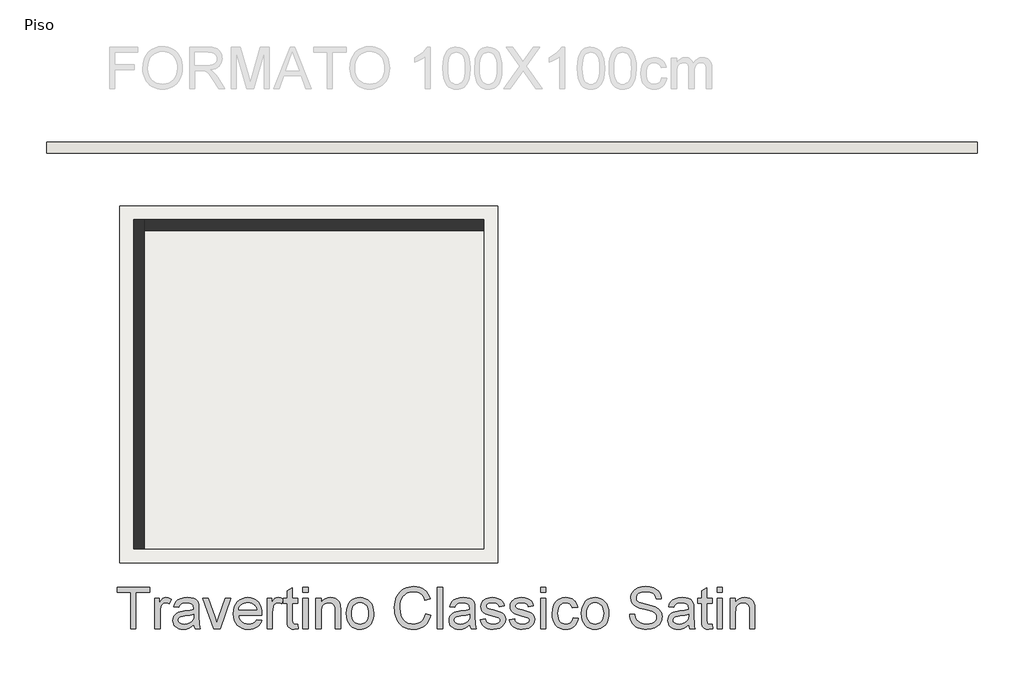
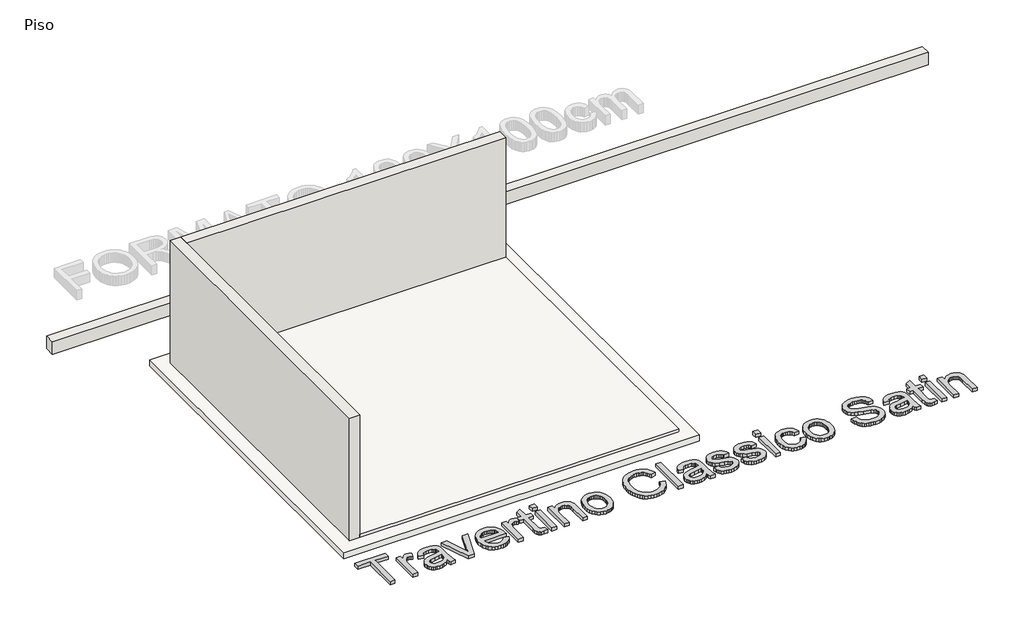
# One storey, part 1 of 2: 3 walls, 2 slabs, 1 proxy.
"""IFC4 building model written with IfcOpenShell, lengths in millimetres."""

from ifc_helpers import new_model, si_unit, frame, origin, origin_with_axes, place, context, project, spatial, polyline, outline, extrude, faceted_brep, element, save

model = new_model("IFC4")

# Units and contexts
model_context = context("Model", 3, world=origin())
ifc_project = project(units=[si_unit("LENGTHUNIT", "METRE", prefix="MILLI")], contexts=[model_context])

# Site, building, storey
site = spatial("IfcSite", under=ifc_project)
building = spatial("IfcBuilding", under=site)
storey = spatial("IfcBuildingStorey", under=building, Name="Piso", Elevation=0.0)

# Proxy
placement = place(None, origin())
element("IfcBuildingElementProxy", 1, Name="600mm Arial", ObjectType="600mm Arial", at=placement, inside=storey, context=model_context, shape_type="SweptSolid", body=[
    extrude(outline(polyline([(92908.3794559, -5134.2532893), (92908.3794559, -4606.857661), (92710.6060953, -4606.857661), (92710.6060953, -4531.5154284), (93181.4950492, -4531.5154284), (93181.4950492, -4606.857661), (92983.7216886, -4606.857661), (92983.7216886, -5134.2532893), (92908.3794559, -5134.2532893)])), origin_with_axes(), (0.0, 0.0, 1.0), 50.0),
    extrude(outline(polyline([(93256.8372818, -5134.2532893), (93256.8372818, -4691.6176727), (93322.7617353, -4691.6176727), (93322.7617353, -4757.1006679), (93347.1155234, -4719.135246), (93369.5563251, -4696.7680207), (93392.0707032, -4685.8419254), (93416.6452205, -4682.1998937), (93454.169184, -4688.0124292), (93492.2817587, -4705.4500358), (93467.1186302, -4772.9931701), (93440.6311266, -4761.4048872), (93414.1436229, -4757.5421263), (93391.6476389, -4761.2577344), (93371.5428879, -4772.4045589), (93355.3008978, -4790.136471), (93344.3931966, -4813.6073423), (93335.232935, -4855.6930426), (93332.1795144, -4901.6047156), (93332.1795144, -5134.2532893), (93256.8372818, -5134.2532893)])), origin_with_axes(), (0.0, 0.0, 1.0), 50.0),
    extrude(outline(polyline([(93821.9040264, -5077.7466149), (93785.9067731, -5108.6119143), (93748.8426621, -5128.8086358), (93709.8655647, -5139.9554603), (93668.1293524, -5143.6710684), (93634.583113, -5141.4361853), (93605.1663489, -5134.7315359), (93579.8790603, -5123.5571203), (93558.721247, -5107.9129385), (93542.0148059, -5088.7922718), (93530.0816337, -5067.1884016), (93522.9217304, -5043.101328), (93520.5350959, -5016.5310509), (93524.1403395, -4985.2978695), (93534.9560701, -4956.9341677), (93551.6395186, -4932.653956), (93572.8479156, -4913.671245), (93597.7719208, -4899.3238472), (93625.6021937, -4888.949575), (93690.7908833, -4877.6188095), (93767.8253731, -4865.6994329), (93821.462568, -4851.719917), (93821.9040264, -4834.9444981), (93816.7168902, -4801.3200837), (93810.2329701, -4788.8672782), (93801.1554818, -4779.3207404), (93785.4653147, -4769.7925967), (93766.3538451, -4762.9867798), (93717.8669981, -4757.5421263), (93672.9853947, -4761.1657639), (93641.6418487, -4772.0366769), (93620.2679048, -4792.1414279), (93605.2951076, -4823.4665798), (93529.952875, -4814.0488007), (93543.0310799, -4772.8460173), (93562.5472198, -4740.4724017), (93590.3223104, -4715.7139434), (93628.1773677, -4697.3566319), (93674.4753168, -4685.9890782), (93727.5790828, -4682.1998937), (93778.512345, -4685.5476198), (93818.887394, -4695.5907983), (93849.3296291, -4710.6923542), (93870.4644497, -4729.2152126), (93884.4807538, -4752.1158668), (93893.567439, -4780.35081), (93897.246259, -4846.2752635), (93897.246259, -4940.0115959), (93901.0722317, -5070.9040098), (93906.7376145, -5103.2592312), (93916.0818171, -5134.2532893), (93840.7395845, -5134.2532893), (93828.6730551, -5108.0600913), (93821.9040264, -5077.7466149)]), holes=[polyline([(93821.9040264, -4927.0621497), (93771.2834638, -4939.6069257), (93700.3558152, -4950.1651389), (93635.5350076, -4962.3788212), (93618.6676181, -4970.7297425), (93606.1780244, -4982.2444489), (93598.4525025, -4996.0400237), (93595.8773285, -5011.2335501), (93601.487529, -5033.6375637), (93618.3181302, -5051.9948752), (93646.0012504, -5064.2453457), (93684.1690074, -5068.3288358), (93724.6360268, -5063.8222814), (93760.3941568, -5050.302618), (93789.383258, -5030.381808), (93809.5431913, -5006.6718134), (93818.4827238, -4982.2444489), (93821.462568, -4948.3993054), (93821.9040264, -4927.0621497)])]), origin_with_axes(), (0.0, 0.0, 1.0), 50.0),
    extrude(outline(polyline([(94109.4405938, -5134.2532893), (93953.7529334, -4691.6176727), (94033.50975, -4691.6176727), (94127.8346936, -4956.7870149), (94156.2351836, -5045.9616105), (94184.0470624, -4961.79021), (94278.9606172, -4691.6176727), (94358.7174337, -4691.6176727), (94204.9427597, -5134.2532893), (94109.4405938, -5134.2532893)])), origin_with_axes(), (0.0, 0.0, 1.0), 50.0),
    extrude(outline(polyline([(94734.54568, -5002.4043823), (94808.4163846, -5011.8221613), (94797.0902177, -5041.4090708), (94781.8001223, -5067.4827072), (94762.5460984, -5090.0430706), (94739.3281459, -5109.0901609), (94712.3853883, -5124.2193079), (94681.9569488, -5135.0258415), (94648.0428274, -5141.5097617), (94610.643024, -5143.6710684), (94563.8944195, -5139.9416647), (94522.2409806, -5128.7534535), (94485.6827073, -5110.1064349), (94454.2195997, -5084.0006088), (94428.9185155, -5051.1625422), (94410.8463124, -5012.318802), (94400.0029906, -4967.4693883), (94396.38855, -4916.614301), (94400.0397788, -4864.0347668), (94410.9934652, -4817.6908325), (94429.2496093, -4777.582498), (94454.8082109, -4743.7097633), (94486.1885451, -4716.7991953), (94521.9098868, -4697.5773611), (94561.9722361, -4686.0442605), (94606.3755929, -4682.1998937), (94649.3488084, -4686.0350635), (94688.2109427, -4697.5405729), (94722.9619957, -4716.7164219), (94753.6019674, -4743.5626105), (94778.6133445, -4777.3617688), (94796.4786139, -4817.3965269), (94807.1977755, -4863.6668848), (94810.7708294, -4916.1728426), (94810.329371, -4936.4799287), (94471.7307827, -4936.4799287), (94476.0947828, -4966.5450848), (94484.7721994, -4992.8762386), (94497.7630323, -5015.4733901), (94515.0672817, -5034.3365394), (94535.7284542, -5049.2081691), (94558.7900568, -5059.8307617), (94584.2520894, -5066.2043173), (94612.114552, -5068.3288358), (94652.2136895, -5064.3924984), (94685.9852566, -5052.5834864), (94713.4292535, -5032.1660357), (94734.54568, -5002.4043823)]), holes=[polyline([(94471.7307827, -4861.1376961), (94735.4285968, -4861.1376961), (94725.2382655, -4821.3328642), (94716.473477, -4805.6794853), (94705.2622732, -4792.8587978), (94684.7160638, -4777.407754), (94661.337163, -4766.3712942), (94635.1255708, -4759.7494182), (94606.0812873, -4757.5421263), (94579.5891851, -4759.3033613), (94555.2951779, -4764.5870665), (94533.1992655, -4773.3932417), (94513.3014481, -4785.7218871), (94496.6042041, -4801.0027855), (94484.1100118, -4818.6657198), (94475.8188713, -4838.71069), (94471.7307827, -4861.1376961)])]), origin_with_axes(), (0.0, 0.0, 1.0), 50.0),
    extrude(outline(polyline([(95328.7486786, -5071.4190446), (95338.1664577, -5136.4605813), (95281.806936, -5143.6710684), (95245.6441359, -5140.5440715), (95218.6783857, -5131.1630806), (95199.6220983, -5116.7053182), (95187.1876869, -5098.3480066), (95180.3450818, -5066.8205196), (95178.0642134, -5012.8522309), (95178.0642134, -4766.9599053), (95121.5575389, -4766.9599053), (95121.5575389, -4705.4500358), (95121.5575389, -4691.6176727), (95178.0642134, -4691.6176727), (95178.0642134, -4584.0489773), (95253.406446, -4539.7559851), (95253.406446, -4691.6176727), (95328.7486786, -4691.6176727), (95328.7486786, -4766.9599053), (95253.406446, -4766.9599053), (95253.406446, -5010.644939), (95257.3795716, -5049.4932776), (95270.2554414, -5063.2520643), (95281.1263543, -5067.0596429), (95295.9336046, -5068.3288358), (95328.7486786, -5071.4190446)])), origin_with_axes(), (0.0, 0.0, 1.0), 50.0),
    extrude(outline(polyline([(94886.113062, -5134.2532893), (94886.113062, -4691.6176727), (94952.0375156, -4691.6176727), (94952.0375156, -4757.1006679), (94976.3913036, -4719.135246), (94998.8321053, -4696.7680207), (95021.3464834, -4685.8419254), (95045.9210007, -4682.1998937), (95083.4449642, -4688.0124292), (95121.5575389, -4705.4500358), (95096.3944105, -4772.9931701), (95069.9069068, -4761.4048872), (95043.4194032, -4757.5421263), (95020.9234192, -4761.2577344), (95000.8186681, -4772.4045589), (94984.576678, -4790.136471), (94973.6689769, -4813.6073423), (94964.5087152, -4855.6930426), (94961.4552946, -4901.6047156), (94961.4552946, -5134.2532893), (94886.113062, -5134.2532893)])), origin_with_axes(), (0.0, 0.0, 1.0), 50.0),
    extrude(outline(polyline([(95404.0909112, -4606.857661), (95404.0909112, -4531.5154284), (95479.4331438, -4531.5154284), (95479.4331438, -4606.857661), (95404.0909112, -4606.857661)])), origin_with_axes(), (0.0, 0.0, 1.0), 50.0),
    extrude(outline(polyline([(95404.0909112, -5134.2532893), (95404.0909112, -4691.6176727), (95479.4331438, -4691.6176727), (95479.4331438, -5134.2532893), (95404.0909112, -5134.2532893)])), origin_with_axes(), (0.0, 0.0, 1.0), 50.0),
    extrude(outline(polyline([(95592.4464928, -5134.2532893), (95592.4464928, -4691.6176727), (95667.7887254, -4691.6176727), (95667.7887254, -4753.4218479), (95693.9635293, -4722.2622429), (95725.3990458, -4700.0053822), (95762.0952748, -4686.6512658), (95804.0522164, -4682.1998937), (95841.1899038, -4685.7867431), (95875.2005943, -4696.5472915), (95903.5642961, -4713.1387695), (95923.7610176, -4734.2184078), (95937.4646219, -4759.7310241), (95946.3489721, -4789.6214363), (95950.3220977, -4862.4620713), (95950.3220977, -5134.2532893), (95874.9798651, -5134.2532893), (95874.9798651, -4872.6156144), (95872.8093613, -4833.6569111), (95866.29785, -4805.9553968), (95854.2865028, -4786.1081632), (95835.6164916, -4770.7123017), (95811.6857678, -4760.8346701), (95783.892283, -4757.5421263), (95761.0146215, -4759.3907333), (95739.7648377, -4764.9365544), (95720.1429318, -4774.1795895), (95702.1489037, -4787.1198387), (95687.1163257, -4805.2288299), (95676.37877, -4829.9780911), (95669.9362365, -4861.3676224), (95667.7887254, -4899.3974236), (95667.7887254, -5134.2532893), (95592.4464928, -5134.2532893)])), origin_with_axes(), (0.0, 0.0, 1.0), 50.0),
    extrude(outline(polyline([(96035.0821094, -4912.935481), (96039.1564025, -4855.6102691), (96051.3792817, -4806.2129142), (96071.7507472, -4764.7434163), (96100.2707989, -4731.2017754), (96128.9839886, -4709.7634521), (96160.6770225, -4694.4503641), (96195.3499006, -4685.2625113), (96233.0026228, -4682.1998937), (96274.5686897, -4685.9292974), (96312.152434, -4697.1175086), (96345.7538558, -4715.7645272), (96375.3729549, -4741.8703533), (96399.5474005, -4774.55207), (96416.8148616, -4812.9267606), (96427.1753383, -4856.9944251), (96430.6288306, -4906.7550635), (96429.1021203, -4947.0841272), (96424.5219894, -4982.8698483), (96416.888438, -5014.1122268), (96406.2014661, -5040.8112626), (96392.5944308, -5063.8728651), (96376.2006894, -5084.2029439), (96357.0202419, -5101.8014988), (96335.0530882, -5116.66853), (96311.1545541, -5128.4821405), (96286.1799652, -5136.9204338), (96260.1293214, -5141.9834098), (96233.0026228, -5143.6710684), (96190.8295505, -5139.9554603), (96152.8963183, -5128.8086358), (96119.2029261, -5110.230595), (96089.7493738, -5084.221338), (96065.8324456, -5051.222323), (96048.7489255, -5011.6750085), (96038.4988134, -4965.5793945), (96035.0821094, -4912.935481)]), holes=[polyline([(96110.424342, -4912.7883282), (96112.6040428, -4949.3328059), (96119.1431453, -4980.975256), (96130.0416494, -5007.7156786), (96145.2995551, -5029.5540735), (96163.8592018, -5046.518032), (96184.6629286, -5058.6351452), (96207.7107356, -5065.9054132), (96233.0026228, -5068.3288358), (96258.1657512, -5065.8916176), (96281.1215877, -5058.5799629), (96301.8701323, -5046.3938718), (96320.4113848, -5029.3333443), (96335.6692906, -5007.2788187), (96346.5677947, -4980.1107334), (96353.1068971, -4947.8290883), (96355.286598, -4910.4338835), (96353.0931016, -4875.0482341), (96346.5126124, -4844.2335184), (96335.5451304, -4817.9897366), (96320.1906556, -4796.3168886), (96301.5804252, -4779.3529301), (96280.8456762, -4767.2358168), (96257.9864088, -4759.9655489), (96233.0026228, -4757.5421263), (96207.7107356, -4759.9563519), (96184.6629286, -4767.1990286), (96163.8592018, -4779.2701566), (96145.2995551, -4796.1697358), (96130.0416494, -4817.9437514), (96119.1431453, -4844.6381886), (96112.6040428, -4876.2530476), (96110.424342, -4912.7883282)])]), origin_with_axes(), (0.0, 0.0, 1.0), 50.0),
    extrude(outline(polyline([(97184.0511567, -4919.9988153), (97259.3933893, -4939.4229847), (97244.4849714, -4986.2773553), (97224.6285408, -5027.2180228), (97199.8240972, -5062.2449873), (97170.0716409, -5091.3582487), (97136.0425563, -5114.2451073), (97098.4082282, -5130.5928635), (97057.1686566, -5140.4015172), (97012.3238413, -5143.6710684), (96966.3799787, -5141.197062), (96924.9334734, -5133.7750427), (96887.9843255, -5121.4050107), (96855.532535, -5104.0869657), (96827.132045, -5082.0784254), (96802.3367985, -5055.636907), (96781.1467956, -5024.7624105), (96763.5620362, -4989.454936), (96749.7526658, -4951.2411938), (96739.8888298, -4911.6478941), (96733.9705282, -4870.6750368), (96731.997761, -4828.3226221), (96734.2280456, -4782.8799987), (96740.9188994, -4740.4356135), (96752.0703224, -4700.9894666), (96767.6823145, -4664.5415579), (96787.405388, -4631.6942942), (96810.8900549, -4603.0500824), (96838.1363152, -4578.6089223), (96869.1441688, -4558.3708141), (96902.8605537, -4542.5013045), (96938.2324075, -4531.1659405), (96975.2597303, -4524.3647222), (97013.9425221, -4522.0976494), (97057.0352993, -4525.0315083), (97096.5504241, -4533.833085), (97132.4878965, -4548.5023796), (97164.8477165, -4569.0393919), (97193.0964552, -4594.9014962), (97216.7006838, -4625.5460664), (97235.6604021, -4660.9731025), (97249.9756102, -4701.1826046), (97174.6333776, -4719.135246), (97162.7691833, -4689.5069498), (97148.513756, -4664.19207), (97131.8670957, -4643.1906066), (97112.8292024, -4626.5025596), (97091.2897116, -4613.7876381), (97067.1382586, -4604.7055514), (97040.3748435, -4599.2562993), (97010.9994662, -4597.439882), (96977.2003079, -4599.4540359), (96946.2890232, -4605.4964977), (96918.2656122, -4615.5672673), (96893.1300749, -4629.6663447), (96871.1997095, -4647.1591336), (96852.7918141, -4667.4110375), (96837.9063889, -4690.4220563), (96826.5434338, -4716.19219), (96812.1408537, -4771.3377011), (96807.3399936, -4828.1754693), (96813.0237705, -4897.7787428), (96820.1284915, -4929.0487124), (96830.0751009, -4957.9642372), (96843.0245472, -4983.9505017), (96859.1377786, -5006.4326901), (96878.4147951, -5025.4108025), (96900.8555968, -5040.884839), (96925.3703333, -5052.8915876), (96950.869154, -5061.4678366), (96977.3520592, -5066.613586), (97004.8190486, -5068.3288358), (97037.5743418, -5065.9927851), (97067.7084757, -5058.9846331), (97095.2214504, -5047.3043798), (97120.1132659, -5030.9520251), (97141.795311, -5010.0011455), (97159.6789745, -4984.5253173), (97173.7642564, -4954.5245406), (97184.0511567, -4919.9988153)])), origin_with_axes(), (0.0, 0.0, 1.0), 50.0),
    extrude(outline(polyline([(97353.5711801, -5134.2532893), (97353.5711801, -4531.5154284), (97428.9134127, -4531.5154284), (97428.9134127, -5134.2532893), (97353.5711801, -5134.2532893)])), origin_with_axes(), (0.0, 0.0, 1.0), 50.0),
    extrude(outline(polyline([(97824.4601339, -5077.7466149), (97788.4628807, -5108.6119143), (97751.3987697, -5128.8086358), (97712.4216723, -5139.9554603), (97670.6854599, -5143.6710684), (97637.1392205, -5141.4361853), (97607.7224564, -5134.7315359), (97582.4351678, -5123.5571203), (97561.2773545, -5107.9129385), (97544.5709134, -5088.7922718), (97532.6377412, -5067.1884016), (97525.4778379, -5043.101328), (97523.0912034, -5016.5310509), (97526.696447, -4985.2978695), (97537.5121777, -4956.9341677), (97554.1956261, -4932.653956), (97575.4040232, -4913.671245), (97600.3280283, -4899.3238472), (97628.1583013, -4888.949575), (97693.3469908, -4877.6188095), (97770.3814806, -4865.6994329), (97824.0186755, -4851.719917), (97824.4601339, -4834.9444981), (97819.2729978, -4801.3200837), (97812.7890776, -4788.8672782), (97803.7115894, -4779.3207404), (97788.0214223, -4769.7925967), (97768.9099526, -4762.9867798), (97720.4231057, -4757.5421263), (97675.5415022, -4761.1657639), (97644.1979563, -4772.0366769), (97622.8240123, -4792.1414279), (97607.8512151, -4823.4665798), (97532.5089825, -4814.0488007), (97545.5871875, -4772.8460173), (97565.1033273, -4740.4724017), (97592.8784179, -4715.7139434), (97630.7334752, -4697.3566319), (97677.0314243, -4685.9890782), (97730.1351903, -4682.1998937), (97781.0684526, -4685.5476198), (97821.4435015, -4695.5907983), (97851.8857366, -4710.6923542), (97873.0205573, -4729.2152126), (97887.0368613, -4752.1158668), (97896.1235466, -4780.35081), (97899.8023665, -4846.2752635), (97899.8023665, -4940.0115959), (97903.6283393, -5070.9040098), (97909.293722, -5103.2592312), (97918.6379247, -5134.2532893), (97843.295692, -5134.2532893), (97831.2291626, -5108.0600913), (97824.4601339, -5077.7466149)]), holes=[polyline([(97824.4601339, -4927.0621497), (97773.8395714, -4939.6069257), (97702.9119227, -4950.1651389), (97638.0911151, -4962.3788212), (97621.2237257, -4970.7297425), (97608.7341319, -4982.2444489), (97601.00861, -4996.0400237), (97598.4334361, -5011.2335501), (97604.0436365, -5033.6375637), (97620.8742378, -5051.9948752), (97648.5573579, -5064.2453457), (97686.7251149, -5068.3288358), (97727.1921344, -5063.8222814), (97762.9502643, -5050.302618), (97791.9393655, -5030.381808), (97812.0992989, -5006.6718134), (97821.0388313, -4982.2444489), (97824.0186755, -4948.3993054), (97824.4601339, -4927.0621497)])]), origin_with_axes(), (0.0, 0.0, 1.0), 50.0),
    extrude(outline(polyline([(97975.1445991, -5002.4043823), (98050.4868317, -4992.9866032), (98055.0393714, -5010.1666924), (98062.3694202, -5025.213066), (98072.476978, -5038.125724), (98085.3620449, -5048.9046665), (98101.061409, -5057.4027405), (98119.6118586, -5063.4727935), (98165.2660142, -5068.3288358), (98210.3683468, -5063.8774637), (98227.8979239, -5058.3132485), (98242.0797748, -5050.5233472), (98260.8417566, -5031.1727543), (98265.532252, -5020.3386295), (98267.0957505, -5008.7319526), (98265.523055, -4998.5600154), (98260.8049684, -4989.5285124), (98241.932622, -4974.886809), (98213.716073, -4965.3218771), (98164.3830974, -4953.4025005), (98095.6259525, -4933.5184787), (98050.9282901, -4916.5407246), (98022.2151004, -4898.0178661), (98001.4113736, -4873.4985312), (97988.774627, -4844.5462181), (97984.5623782, -4812.7244255), (97987.9468926, -4783.5329892), (97998.1004356, -4756.5856331), (98014.1033024, -4732.9492149), (98035.0357879, -4713.6905924), (98055.8395148, -4701.5688807), (98082.9340237, -4691.3969435), (98114.2591756, -4684.4991561), (98147.7548313, -4682.1998937), (98196.7935012, -4685.8971077), (98239.4310245, -4696.9887499), (98273.7176264, -4714.3895682), (98297.7035325, -4737.0143109), (98313.5960347, -4766.5368411), (98323.602425, -4804.6310217), (98248.2601923, -4814.0488007), (98238.7504428, -4790.3388061), (98219.9332787, -4772.4781353), (98191.6247592, -4761.2761285), (98153.6409432, -4757.5421263), (98110.3780205, -4761.1105816), (98081.5360721, -4771.8159477), (98065.3124761, -4787.2669915), (98059.9046108, -4805.07248), (98062.148691, -4816.6607629), (98068.8809315, -4826.998247), (98080.3956379, -4836.232085), (98096.9871159, -4843.6265131), (98161.8814999, -4859.6661681), (98272.4668276, -4895.1299925), (98301.676658, -4912.0893524), (98323.8231541, -4935.3027063), (98337.7842759, -4964.8436306), (98342.4379831, -5000.7857015), (98336.9749355, -5037.941783), (98320.5857926, -5072.8905725), (98293.8959538, -5102.8913492), (98257.5308186, -5125.2033923), (98213.6057084, -5139.0541494), (98164.2359446, -5143.6710684), (98123.6861517, -5141.4453823), (98088.2683126, -5134.7683241), (98057.9824274, -5123.6398938), (98032.828496, -5108.0600913), (98012.2822865, -5088.102493), (97995.8195672, -5063.8406755), (97983.4403381, -5035.2746385), (97975.1445991, -5002.4043823)])), origin_with_axes(), (0.0, 0.0, 1.0), 50.0),
    extrude(outline(polyline([(98398.9446576, -5002.4043823), (98474.2868902, -4992.9866032), (98478.8394299, -5010.1666924), (98486.1694786, -5025.213066), (98496.2770364, -5038.125724), (98509.1621033, -5048.9046665), (98524.8614675, -5057.4027405), (98543.4119171, -5063.4727935), (98589.0660727, -5068.3288358), (98634.1684053, -5063.8774637), (98651.6979823, -5058.3132485), (98665.8798333, -5050.5233472), (98684.641815, -5031.1727543), (98689.3323105, -5020.3386295), (98690.8958089, -5008.7319526), (98689.3231134, -4998.5600154), (98684.6050268, -4989.5285124), (98665.7326805, -4974.886809), (98637.5161314, -4965.3218771), (98588.1831559, -4953.4025005), (98519.426011, -4933.5184787), (98474.7283486, -4916.5407246), (98446.0151588, -4898.0178661), (98425.211432, -4873.4985312), (98412.5746855, -4844.5462181), (98408.3624366, -4812.7244255), (98411.746951, -4783.5329892), (98421.9004941, -4756.5856331), (98437.9033609, -4732.9492149), (98458.8358464, -4713.6905924), (98479.6395732, -4701.5688807), (98506.7340821, -4691.3969435), (98538.059234, -4684.4991561), (98571.5548897, -4682.1998937), (98620.5935597, -4685.8971077), (98663.2310829, -4696.9887499), (98697.5176848, -4714.3895682), (98721.5035909, -4737.0143109), (98737.3960931, -4766.5368411), (98747.4024834, -4804.6310217), (98672.0602508, -4814.0488007), (98662.5505012, -4790.3388061), (98643.7333372, -4772.4781353), (98615.4248176, -4761.2761285), (98577.4410016, -4757.5421263), (98534.178079, -4761.1105816), (98505.3361306, -4771.8159477), (98489.1125346, -4787.2669915), (98483.7046693, -4805.07248), (98485.9487494, -4816.6607629), (98492.6809899, -4826.998247), (98504.1956964, -4836.232085), (98520.7871744, -4843.6265131), (98585.6815583, -4859.6661681), (98696.2668861, -4895.1299925), (98725.4767165, -4912.0893524), (98747.6232126, -4935.3027063), (98761.5843343, -4964.8436306), (98766.2380415, -5000.7857015), (98760.7749939, -5037.941783), (98744.385851, -5072.8905725), (98717.6960123, -5102.8913492), (98681.3308771, -5125.2033923), (98637.4057668, -5139.0541494), (98588.0360031, -5143.6710684), (98547.4862102, -5141.4453823), (98512.0683711, -5134.7683241), (98481.7824858, -5123.6398938), (98456.6285544, -5108.0600913), (98436.082345, -5088.102493), (98419.6196257, -5063.8406755), (98407.2403966, -5035.2746385), (98398.9446576, -5002.4043823)])), origin_with_axes(), (0.0, 0.0, 1.0), 50.0),
    extrude(outline(polyline([(98850.9980532, -4606.857661), (98850.9980532, -4531.5154284), (98926.3402858, -4531.5154284), (98926.3402858, -4606.857661), (98850.9980532, -4606.857661)])), origin_with_axes(), (0.0, 0.0, 1.0), 50.0),
    extrude(outline(polyline([(98850.9980532, -5134.2532893), (98850.9980532, -4691.6176727), (98926.3402858, -4691.6176727), (98926.3402858, -5134.2532893), (98850.9980532, -5134.2532893)])), origin_with_axes(), (0.0, 0.0, 1.0), 50.0),
    extrude(outline(polyline([(99321.8870071, -4974.151045), (99397.2292397, -4983.5688241), (99389.0346682, -5019.1200204), (99376.2231777, -5050.5785295), (99358.7947682, -5077.9443514), (99336.7494397, -5101.2174862), (99311.0160941, -5119.7909284), (99282.5236336, -5133.0576728), (99251.2720581, -5141.0177195), (99217.2613676, -5143.6710684), (99175.005522, -5139.9692558), (99137.118275, -5128.8638181), (99103.5996267, -5110.3547552), (99074.4495771, -5084.4420672), (99050.8545456, -5051.6131976), (99034.0009517, -5012.3555902), (99023.8887954, -4966.669245), (99020.5180766, -4914.5541618), (99026.2754298, -4847.5076682), (99033.4721214, -4817.3367461), (99043.5474895, -4789.4007071), (99056.5705121, -4764.2605712), (99072.6101671, -4742.4773586), (99091.6664545, -4724.0510691), (99113.7393742, -4708.9817029), (99137.8310464, -4697.2646614), (99162.943591, -4688.895346), (99189.0770083, -4683.8737567), (99216.231298, -4682.1998937), (99249.6579758, -4684.4991561), (99279.8932773, -4691.3969435), (99306.9372025, -4702.8932559), (99330.7897513, -4718.9880932), (99351.0462537, -4739.3135734), (99367.3020394, -4763.5018146), (99379.5571083, -4791.5528167), (99387.8114606, -4823.4665798), (99312.469228, -4832.8843589), (99298.8024119, -4800.0141026), (99277.5204384, -4776.4512608), (99249.8005301, -4762.2694099), (99216.8199092, -4757.5421263), (99191.2199209, -4759.8689799), (99168.1307272, -4766.8495408), (99147.5523281, -4778.4838088), (99129.4847236, -4794.7717842), (99114.7740423, -4816.0905458), (99104.2664128, -4842.8171728), (99097.9618351, -4874.951665), (99095.8603092, -4912.4940226), (99097.9158499, -4950.6019988), (99104.0824718, -4983.1089716), (99114.3601751, -5010.014941), (99128.7489596, -5031.3199071), (99146.4578791, -5047.5113134), (99166.6959874, -5059.0766036), (99189.4632844, -5066.0157778), (99214.7597701, -5068.3288358), (99253.7736557, -5062.5530885), (99270.6456437, -5055.3334043), (99285.7609951, -5045.2258465), (99298.6966458, -5032.1200504), (99309.0295313, -5015.9056515), (99316.7596518, -4996.5826497), (99321.8870071, -4974.151045)])), origin_with_axes(), (0.0, 0.0, 1.0), 50.0),
    extrude(outline(polyline([(99444.3181351, -4912.935481), (99448.3924282, -4855.6102691), (99460.6153074, -4806.2129142), (99480.9867729, -4764.7434163), (99509.5068246, -4731.2017754), (99538.2200143, -4709.7634521), (99569.9130482, -4694.4503641), (99604.5859263, -4685.2625113), (99642.2386485, -4682.1998937), (99683.8047154, -4685.9292974), (99721.3884597, -4697.1175086), (99754.9898815, -4715.7645272), (99784.6089806, -4741.8703533), (99808.7834262, -4774.55207), (99826.0508874, -4812.9267606), (99836.411364, -4856.9944251), (99839.8648563, -4906.7550635), (99838.338146, -4947.0841272), (99833.7580152, -4982.8698483), (99826.1244638, -5014.1122268), (99815.4374918, -5040.8112626), (99801.8304565, -5063.8728651), (99785.4367151, -5084.2029439), (99766.2562676, -5101.8014988), (99744.2891139, -5116.66853), (99720.3905798, -5128.4821405), (99695.4159909, -5136.9204338), (99669.3653471, -5141.9834098), (99642.2386485, -5143.6710684), (99600.0655762, -5139.9554603), (99562.132344, -5128.8086358), (99528.4389518, -5110.230595), (99498.9853995, -5084.221338), (99475.0684713, -5051.222323), (99457.9849512, -5011.6750085), (99447.7348391, -4965.5793945), (99444.3181351, -4912.935481)]), holes=[polyline([(99519.6603677, -4912.7883282), (99521.8400685, -4949.3328059), (99528.379171, -4980.975256), (99539.2776751, -5007.7156786), (99554.5355808, -5029.5540735), (99573.0952275, -5046.518032), (99593.8989543, -5058.6351452), (99616.9467613, -5065.9054132), (99642.2386485, -5068.3288358), (99667.4017769, -5065.8916176), (99690.3576134, -5058.5799629), (99711.106158, -5046.3938718), (99729.6474105, -5029.3333443), (99744.9053163, -5007.2788187), (99755.8038204, -4980.1107334), (99762.3429228, -4947.8290883), (99764.5226237, -4910.4338835), (99762.3291273, -4875.0482341), (99755.7486381, -4844.2335184), (99744.7811561, -4817.9897366), (99729.4266813, -4796.3168886), (99710.8164509, -4779.3529301), (99690.0817019, -4767.2358168), (99667.2224345, -4759.9655489), (99642.2386485, -4757.5421263), (99616.9467613, -4759.9563519), (99593.8989543, -4767.1990286), (99573.0952275, -4779.2701566), (99554.5355808, -4796.1697358), (99539.2776751, -4817.9437514), (99528.379171, -4844.6381886), (99521.8400685, -4876.2530476), (99519.6603677, -4912.7883282)])]), origin_with_axes(), (0.0, 0.0, 1.0), 50.0),
    extrude(outline(polyline([(100141.2337867, -4927.0621497), (100216.5760193, -4927.0621497), (100225.2212462, -4968.8719384), (100240.856231, -5002.4779587), (100265.2468073, -5029.1494033), (100300.1588086, -5050.1554652), (100342.8331201, -5063.7854932), (100390.5106267, -5068.3288358), (100432.4859623, -5064.8891391), (100469.2373736, -5054.5700492), (100499.0174211, -5038.2360886), (100520.0786654, -5016.7517801), (100532.6050473, -4992.0852923), (100536.7805079, -4966.2047939), (100533.653511, -4940.9864832), (100524.2725201, -4919.189475), (100505.2162327, -4900.5930401), (100473.0633464, -4884.9764494), (100363.3609354, -4856.2080774), (100291.3480349, -4837.1701841), (100245.270815, -4819.0519959), (100207.7652455, -4793.7049264), (100181.1857714, -4762.9867798), (100165.3484515, -4727.5597437), (100160.0693449, -4688.0860056), (100161.7018212, -4665.6498024), (100166.5992503, -4643.9585603), (100174.7616321, -4623.0122792), (100186.1889665, -4602.8109591), (100200.752495, -4584.177736), (100218.3234588, -4567.935746), (100238.9018579, -4554.0849888), (100262.4876923, -4542.6254647), (100315.4994878, -4527.2296032), (100374.1766661, -4522.0976494), (100437.7466748, -4527.4687265), (100493.3704325, -4543.5819579), (100517.7058265, -4555.584108), (100539.0613763, -4570.1062497), (100557.437082, -4587.1483832), (100572.8329435, -4606.7105083), (100585.1293992, -4628.2224079), (100594.2068874, -4651.1138651), (100600.0654082, -4675.3848797), (100602.7049615, -4701.0354518), (100527.3627289, -4701.0354518), (100522.3227455, -4676.9943634), (100513.5303658, -4656.080272), (100500.9855898, -4638.2931775), (100484.6884174, -4623.63308), (100464.335346, -4612.1735559), (100439.622873, -4603.9881815), (100410.5509983, -4599.0769569), (100377.119722, -4597.439882), (100342.6215879, -4599.0585628), (100313.1450431, -4603.9146051), (100288.6900874, -4612.008009), (100269.256721, -4623.3387744), (100254.4494707, -4636.9596053), (100243.8728634, -4651.9232055), (100237.526899, -4668.2295749), (100235.4115775, -4685.8787136), (100236.9106966, -4701.063043), (100241.408054, -4714.8310266), (100248.9036497, -4727.1826646), (100259.3974836, -4738.1179569), (100275.9153852, -4748.4738351), (100301.9246422, -4758.9400779), (100382.4172228, -4780.2036572), (100465.4849773, -4800.4003787), (100515.7376578, -4818.0219263), (100558.6878807, -4845.3555585), (100575.2931543, -4861.4228047), (100588.6518693, -4879.0903375), (100598.9203754, -4898.2661865), (100606.2550227, -4918.8583812), (100612.1227405, -4964.2918076), (100610.4350819, -4987.8592479), (100605.3721059, -5010.7369095), (100596.9338127, -5032.9247923), (100585.1202021, -5054.4228964), (100570.1382078, -5074.3988887), (100552.1947635, -5092.0204363), (100531.2898692, -5107.2875391), (100507.4235247, -5120.2001971), (100481.2901075, -5130.4687033), (100453.5839947, -5137.8033506), (100393.4536826, -5143.6710684), (100354.9134451, -5142.0891758), (100319.6381603, -5137.3434981), (100287.6278282, -5129.4340352), (100258.8824488, -5118.3607871), (100233.2272781, -5104.1053598), (100210.4875723, -5086.6493592), (100190.6633313, -5065.9927851), (100173.7545551, -5042.1356377), (100160.1337242, -5015.8504692), (100150.1733192, -4987.9098317), (100143.87334, -4958.3137251), (100141.2337867, -4927.0621497)])), origin_with_axes(), (0.0, 0.0, 1.0), 50.0),
    extrude(outline(polyline([(100998.2516827, -5077.7466149), (100962.2544295, -5108.6119143), (100925.1903184, -5128.8086358), (100886.2132211, -5139.9554603), (100844.4770087, -5143.6710684), (100810.9307693, -5141.4361853), (100781.5140052, -5134.7315359), (100756.2267166, -5123.5571203), (100735.0689033, -5107.9129385), (100718.3624622, -5088.7922718), (100706.42929, -5067.1884016), (100699.2693867, -5043.101328), (100696.8827522, -5016.5310509), (100700.4879958, -4985.2978695), (100711.3037264, -4956.9341677), (100727.9871749, -4932.653956), (100749.1955719, -4913.671245), (100774.1195771, -4899.3238472), (100801.9498501, -4888.949575), (100867.1385396, -4877.6188095), (100944.1730294, -4865.6994329), (100997.8102243, -4851.719917), (100998.2516827, -4834.9444981), (100993.0645466, -4801.3200837), (100986.5806264, -4788.8672782), (100977.5031382, -4779.3207404), (100961.8129711, -4769.7925967), (100942.7015014, -4762.9867798), (100894.2146544, -4757.5421263), (100849.333051, -4761.1657639), (100817.989505, -4772.0366769), (100796.6155611, -4792.1414279), (100781.6427639, -4823.4665798), (100706.3005313, -4814.0488007), (100719.3787362, -4772.8460173), (100738.8948761, -4740.4724017), (100766.6699667, -4715.7139434), (100804.525024, -4697.3566319), (100850.8229731, -4685.9890782), (100903.9267391, -4682.1998937), (100954.8600014, -4685.5476198), (100995.2350503, -4695.5907983), (101025.6772854, -4710.6923542), (101046.812106, -4729.2152126), (101060.8284101, -4752.1158668), (101069.9150953, -4780.35081), (101073.5939153, -4846.2752635), (101073.5939153, -4940.0115959), (101077.419888, -5070.9040098), (101083.0852708, -5103.2592312), (101092.4294734, -5134.2532893), (101017.0872408, -5134.2532893), (101005.0207114, -5108.0600913), (100998.2516827, -5077.7466149)]), holes=[polyline([(100998.2516827, -4927.0621497), (100947.6311201, -4939.6069257), (100876.7034715, -4950.1651389), (100811.8826639, -4962.3788212), (100795.0152744, -4970.7297425), (100782.5256807, -4982.2444489), (100774.8001588, -4996.0400237), (100772.2249848, -5011.2335501), (100777.8351853, -5033.6375637), (100794.6657866, -5051.9948752), (100822.3489067, -5064.2453457), (100860.5166637, -5068.3288358), (100900.9836832, -5063.8222814), (100936.7418131, -5050.302618), (100965.7309143, -5030.381808), (100985.8908476, -5006.6718134), (100994.8303801, -4982.2444489), (100997.8102243, -4948.3993054), (100998.2516827, -4927.0621497)])]), origin_with_axes(), (0.0, 0.0, 1.0), 50.0),
    extrude(outline(polyline([(101337.2917294, -5071.4190446), (101346.7095085, -5136.4605813), (101290.3499869, -5143.6710684), (101254.1871867, -5140.5440715), (101227.2214365, -5131.1630806), (101208.1651491, -5116.7053182), (101195.7307377, -5098.3480066), (101188.8881326, -5066.8205196), (101186.6072642, -5012.8522309), (101186.6072642, -4766.9599053), (101130.1005898, -4766.9599053), (101130.1005898, -4691.6176727), (101186.6072642, -4691.6176727), (101186.6072642, -4584.0489773), (101261.9494968, -4539.7559851), (101261.9494968, -4691.6176727), (101337.2917294, -4691.6176727), (101337.2917294, -4766.9599053), (101261.9494968, -4766.9599053), (101261.9494968, -5010.644939), (101265.9226224, -5049.4932776), (101278.7984922, -5063.2520643), (101289.6694052, -5067.0596429), (101304.4766555, -5068.3288358), (101337.2917294, -5071.4190446)])), origin_with_axes(), (0.0, 0.0, 1.0), 50.0),
    extrude(outline(polyline([(101412.6339621, -4606.857661), (101412.6339621, -4531.5154284), (101487.9761947, -4531.5154284), (101487.9761947, -4606.857661), (101412.6339621, -4606.857661)])), origin_with_axes(), (0.0, 0.0, 1.0), 50.0),
    extrude(outline(polyline([(101412.6339621, -5134.2532893), (101412.6339621, -4691.6176727), (101487.9761947, -4691.6176727), (101487.9761947, -5134.2532893), (101412.6339621, -5134.2532893)])), origin_with_axes(), (0.0, 0.0, 1.0), 50.0),
    extrude(outline(polyline([(101600.9895436, -5134.2532893), (101600.9895436, -4691.6176727), (101676.3317762, -4691.6176727), (101676.3317762, -4753.4218479), (101702.5065802, -4722.2622429), (101733.9420966, -4700.0053822), (101770.6383257, -4686.6512658), (101812.5952672, -4682.1998937), (101849.7329546, -4685.7867431), (101883.7436451, -4696.5472915), (101912.1073469, -4713.1387695), (101932.3040684, -4734.2184078), (101946.0076728, -4759.7310241), (101954.8920229, -4789.6214363), (101958.8651485, -4862.4620713), (101958.8651485, -5134.2532893), (101883.5229159, -5134.2532893), (101883.5229159, -4872.6156144), (101881.3524121, -4833.6569111), (101874.8409008, -4805.9553968), (101862.8295536, -4786.1081632), (101844.1595424, -4770.7123017), (101820.2288186, -4760.8346701), (101792.4353339, -4757.5421263), (101769.5576723, -4759.3907333), (101748.3078886, -4764.9365544), (101728.6859826, -4774.1795895), (101710.6919545, -4787.1198387), (101695.6593765, -4805.2288299), (101684.9218208, -4829.9780911), (101678.4792873, -4861.3676224), (101676.3317762, -4899.3974236), (101676.3317762, -5134.2532893), (101600.9895436, -5134.2532893)])), origin_with_axes(), (0.0, 0.0, 1.0), 50.0),
])

# Slabs
element("IfcSlab", 2, ObjectType="5cm - Porcelanato Travertino Classico Satin  - Acetinado 100X100", at=placement, inside=storey, context=model_context, shape_type="SweptSolid", body=[
    extrude(outline(polyline([(98027.3852176, 641.8803419), (98027.3852176, -3978.7196581), (93106.7852176, -3978.7196581), (93106.7852176, 641.8803419), (98027.3852176, 641.8803419)])), origin_with_axes(), (0.0, 0.0, 1.0), 50.0),
])
element("IfcSlab", 3, ObjectType="CO02 - Concreto Estrutural Simples", at=placement, inside=storey, context=model_context, shape_type="SweptSolid", body=[
    extrude(outline(polyline([(98227.3852176, 1000.6803419), (98227.3852176, -4178.7196581), (92747.9852176, -4178.7196581), (92747.9852176, 1000.6803419), (98227.3852176, 1000.6803419)])), frame((0.0, 0.0, -100.0), z_axis=(0.0, 0.0, 1.0), x_axis=(1.0, 0.0, 0.0)), (0.0, 0.0, 1.0), 100.0),
])

# Walls
element("IfcWall", 4, ObjectType="CO01 - Bloco de Concreto 14cm / Pintura Branca Simples", at=placement, inside=storey, context=model_context, shape_type="SweptSolid", body=[
    extrude(outline(polyline([(105186.699165, 1765.7486968), (91686.699165, 1765.7486968), (91686.699165, 1924.5486968), (105186.699165, 1924.5486968), (105186.699165, 1765.7486968)])), origin_with_axes(), (0.0, 0.0, 1.0), 200.0),
])
element("IfcWall", 5, ObjectType="CO01 - Bloco de Concreto 14cm / Pintura Branca Simples", at=placement, inside=storey, context=model_context, shape_type="Brep", body=[
    faceted_brep([(93106.7852176, -3978.7196581, 0.0), (93106.7852176, 641.8803419, 0.0), (93106.7852176, 800.6803419, 0.0), (93106.7852176, 800.6803419, 2000.0), (93106.7852176, 641.8803419, 2000.0), (93106.7852176, -3978.7196581, 2000.0), (92947.9852176, -3978.7196581, 0.0), (92947.9852176, -3978.7196581, 2000.0), (92947.9852176, 800.6803419, 2000.0), (92947.9852176, 800.6803419, 0.0)], [[[0, 1, 2, 3, 4, 5]], [[6, 7, 8, 9]], [[2, 1, 0, 6, 9]], [[5, 4, 3, 8, 7]], [[0, 5, 7, 6]], [[3, 2, 9, 8]]]),
])
element("IfcWall", 6, ObjectType="CO01 - Bloco de Concreto 14cm / Pintura Branca Simples", at=placement, inside=storey, context=model_context, shape_type="SweptSolid", body=[
    extrude(outline(polyline([(98027.3852176, 641.8803419), (93106.7852176, 641.8803419), (93106.7852176, 800.6803419), (98027.3852176, 800.6803419), (98027.3852176, 641.8803419)])), origin_with_axes(), (0.0, 0.0, 1.0), 2000.0),
])

save(model, "model.ifc")
